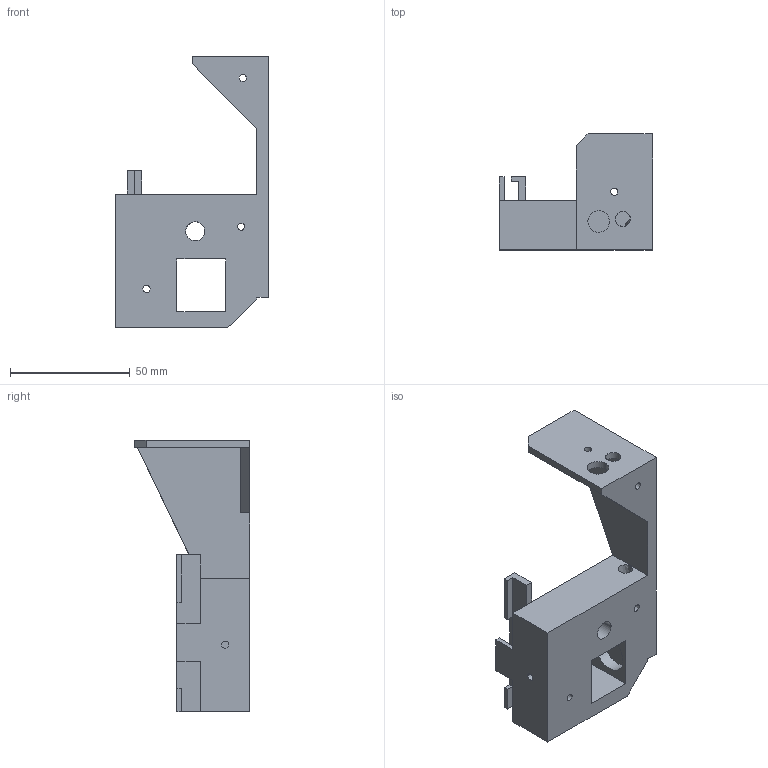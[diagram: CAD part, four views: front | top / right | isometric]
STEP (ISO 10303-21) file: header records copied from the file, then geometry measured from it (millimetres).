
FILE_DESCRIPTION(/* description */ (''),/* implementation_level */ '2;1');
FILE_NAME(/* name */ 'SOPORT~1',/* time_stamp */ '2019-04-01T20:09:23-03:00',/* author */ (''),/* organization */ (''),/* preprocessor_version */ 'ST-DEVELOPER v16.5',/* originating_system */ '',/* authorisation */ '');
FILE_SCHEMA (('AUTOMOTIVE_DESIGN'));
Length unit declared in the file: millimetre
Products named in the file (1): Document
Bounding box: 64 x 48.38 x 113.51 mm (x, y, z)
Volume: 69106 mm3; surface area: 24454.3 mm2
Topology: 1 solids, 1 shells, 66 faces, 185 edges, 121 vertices
Faces by surface type: plane 42, bspline 24
Entity records: 3675 total; most frequent: CARTESIAN_POINT 2493, ORIENTED_EDGE 370, EDGE_CURVE 185, VERTEX_POINT 121, B_SPLINE_CURVE_WITH_KNOTS 120, EDGE_LOOP 86, ADVANCED_FACE 66, FACE_OUTER_BOUND 66
